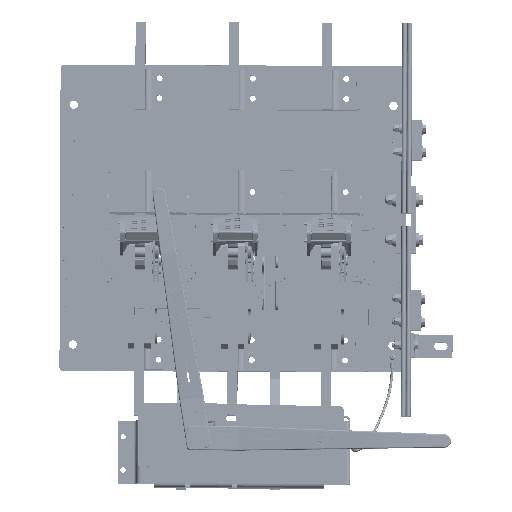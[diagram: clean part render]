
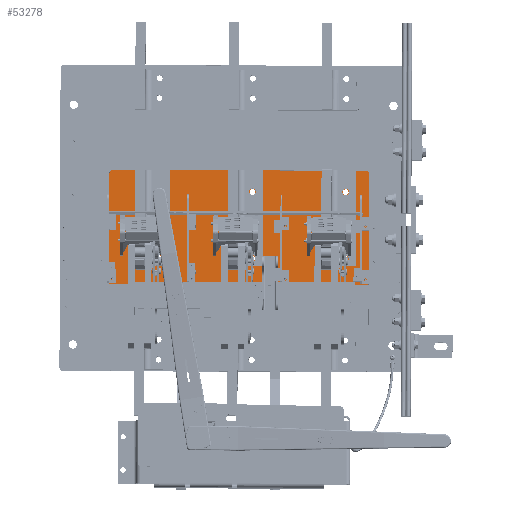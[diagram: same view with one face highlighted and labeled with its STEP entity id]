
A CAD part, top view. The second image highlights one B-rep face of the part: STEP entity #53278.
In plain terms, the highlighted planar face has unit normal (-0.001, 0.016, 1) as drawn and (0, 0, 1) by its records, which use the part's own axes.
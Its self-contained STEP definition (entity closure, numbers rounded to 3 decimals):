
#2370=FACE_BOUND('',#8720,.T.);
#2371=FACE_BOUND('',#8721,.T.);
#2372=FACE_BOUND('',#8722,.T.);
#2373=FACE_BOUND('',#8723,.T.);
#2374=FACE_BOUND('',#8724,.T.);
#2375=FACE_BOUND('',#8725,.T.);
#2376=FACE_BOUND('',#8726,.T.);
#2377=FACE_BOUND('',#8727,.T.);
#2378=FACE_BOUND('',#8728,.T.);
#2379=FACE_BOUND('',#8729,.T.);
#2380=FACE_BOUND('',#8730,.T.);
#2381=FACE_BOUND('',#8731,.T.);
#2382=FACE_BOUND('',#8732,.T.);
#2383=FACE_BOUND('',#8733,.T.);
#2384=FACE_BOUND('',#8734,.T.);
#2385=FACE_BOUND('',#8735,.T.);
#2386=FACE_BOUND('',#8736,.T.);
#3629=PLANE('',#58495);
#5556=FACE_OUTER_BOUND('',#8719,.T.);
#8719=EDGE_LOOP('',(#40740,#40741,#40742,#40743,#40744,#40745));
#8720=EDGE_LOOP('',(#40746));
#8721=EDGE_LOOP('',(#40747));
#8722=EDGE_LOOP('',(#40748));
#8723=EDGE_LOOP('',(#40749));
#8724=EDGE_LOOP('',(#40750));
#8725=EDGE_LOOP('',(#40751));
#8726=EDGE_LOOP('',(#40752));
#8727=EDGE_LOOP('',(#40753));
#8728=EDGE_LOOP('',(#40754));
#8729=EDGE_LOOP('',(#40755));
#8730=EDGE_LOOP('',(#40756));
#8731=EDGE_LOOP('',(#40757));
#8732=EDGE_LOOP('',(#40758));
#8733=EDGE_LOOP('',(#40759));
#8734=EDGE_LOOP('',(#40760));
#8735=EDGE_LOOP('',(#40761));
#8736=EDGE_LOOP('',(#40762));
#12375=CIRCLE('',#58278,0.07);
#12377=CIRCLE('',#58282,0.07);
#12379=CIRCLE('',#58286,0.07);
#12381=CIRCLE('',#58290,0.07);
#12383=CIRCLE('',#58294,0.07);
#12385=CIRCLE('',#58298,0.07);
#12387=CIRCLE('',#58302,0.07);
#12389=CIRCLE('',#58306,0.07);
#12393=CIRCLE('',#58314,0.219);
#12394=CIRCLE('',#58316,0.219);
#12395=CIRCLE('',#58318,0.219);
#12396=CIRCLE('',#58320,0.219);
#12397=CIRCLE('',#58322,0.219);
#12398=CIRCLE('',#58324,0.219);
#12399=CIRCLE('',#58326,0.219);
#12400=CIRCLE('',#58328,0.219);
#12401=CIRCLE('',#58330,0.219);
#12480=CIRCLE('',#58489,0.237);
#12481=CIRCLE('',#58494,0.237);
#15604=LINE('',#83871,#19936);
#15608=LINE('',#83880,#19940);
#15610=LINE('',#83884,#19942);
#15612=LINE('',#83888,#19944);
#19936=VECTOR('',#67706,0.394);
#19940=VECTOR('',#67716,0.394);
#19942=VECTOR('',#67720,0.394);
#19944=VECTOR('',#67724,0.394);
#24462=VERTEX_POINT('',#83412);
#24464=VERTEX_POINT('',#83419);
#24466=VERTEX_POINT('',#83426);
#24468=VERTEX_POINT('',#83433);
#24470=VERTEX_POINT('',#83440);
#24472=VERTEX_POINT('',#83447);
#24474=VERTEX_POINT('',#83454);
#24476=VERTEX_POINT('',#83461);
#24480=VERTEX_POINT('',#83475);
#24481=VERTEX_POINT('',#83479);
#24482=VERTEX_POINT('',#83483);
#24483=VERTEX_POINT('',#83487);
#24484=VERTEX_POINT('',#83491);
#24485=VERTEX_POINT('',#83495);
#24486=VERTEX_POINT('',#83499);
#24487=VERTEX_POINT('',#83503);
#24488=VERTEX_POINT('',#83507);
#24600=VERTEX_POINT('',#83869);
#24601=VERTEX_POINT('',#83870);
#24602=VERTEX_POINT('',#83875);
#24603=VERTEX_POINT('',#83879);
#24604=VERTEX_POINT('',#83883);
#24605=VERTEX_POINT('',#83887);
#30313=EDGE_CURVE('',#24462,#24462,#12375,.T.);
#30316=EDGE_CURVE('',#24464,#24464,#12377,.T.);
#30319=EDGE_CURVE('',#24466,#24466,#12379,.T.);
#30322=EDGE_CURVE('',#24468,#24468,#12381,.T.);
#30325=EDGE_CURVE('',#24470,#24470,#12383,.T.);
#30328=EDGE_CURVE('',#24472,#24472,#12385,.T.);
#30331=EDGE_CURVE('',#24474,#24474,#12387,.T.);
#30334=EDGE_CURVE('',#24476,#24476,#12389,.T.);
#30340=EDGE_CURVE('',#24480,#24480,#12393,.T.);
#30342=EDGE_CURVE('',#24481,#24481,#12394,.T.);
#30344=EDGE_CURVE('',#24482,#24482,#12395,.T.);
#30346=EDGE_CURVE('',#24483,#24483,#12396,.T.);
#30348=EDGE_CURVE('',#24484,#24484,#12397,.T.);
#30350=EDGE_CURVE('',#24485,#24485,#12398,.T.);
#30352=EDGE_CURVE('',#24486,#24486,#12399,.T.);
#30354=EDGE_CURVE('',#24487,#24487,#12400,.T.);
#30356=EDGE_CURVE('',#24488,#24488,#12401,.T.);
#30527=EDGE_CURVE('',#24600,#24601,#15604,.T.);
#30530=EDGE_CURVE('',#24601,#24602,#12480,.T.);
#30532=EDGE_CURVE('',#24602,#24603,#15608,.T.);
#30534=EDGE_CURVE('',#24603,#24604,#15610,.T.);
#30536=EDGE_CURVE('',#24604,#24605,#15612,.T.);
#30538=EDGE_CURVE('',#24605,#24600,#12481,.T.);
#40740=ORIENTED_EDGE('',*,*,#30527,.F.);
#40741=ORIENTED_EDGE('',*,*,#30538,.F.);
#40742=ORIENTED_EDGE('',*,*,#30536,.F.);
#40743=ORIENTED_EDGE('',*,*,#30534,.F.);
#40744=ORIENTED_EDGE('',*,*,#30532,.F.);
#40745=ORIENTED_EDGE('',*,*,#30530,.F.);
#40746=ORIENTED_EDGE('',*,*,#30313,.T.);
#40747=ORIENTED_EDGE('',*,*,#30316,.T.);
#40748=ORIENTED_EDGE('',*,*,#30319,.T.);
#40749=ORIENTED_EDGE('',*,*,#30322,.T.);
#40750=ORIENTED_EDGE('',*,*,#30325,.T.);
#40751=ORIENTED_EDGE('',*,*,#30328,.T.);
#40752=ORIENTED_EDGE('',*,*,#30331,.T.);
#40753=ORIENTED_EDGE('',*,*,#30334,.T.);
#40754=ORIENTED_EDGE('',*,*,#30340,.T.);
#40755=ORIENTED_EDGE('',*,*,#30342,.T.);
#40756=ORIENTED_EDGE('',*,*,#30344,.T.);
#40757=ORIENTED_EDGE('',*,*,#30346,.T.);
#40758=ORIENTED_EDGE('',*,*,#30348,.T.);
#40759=ORIENTED_EDGE('',*,*,#30350,.T.);
#40760=ORIENTED_EDGE('',*,*,#30352,.T.);
#40761=ORIENTED_EDGE('',*,*,#30354,.T.);
#40762=ORIENTED_EDGE('',*,*,#30356,.T.);
#53278=ADVANCED_FACE('',(#5556,#2370,#2371,#2372,#2373,#2374,#2375,#2376,
#2377,#2378,#2379,#2380,#2381,#2382,#2383,#2384,#2385,#2386),#3629,.T.);
#58278=AXIS2_PLACEMENT_3D('',#83413,#67177,#67178);
#58282=AXIS2_PLACEMENT_3D('',#83420,#67186,#67187);
#58286=AXIS2_PLACEMENT_3D('',#83427,#67195,#67196);
#58290=AXIS2_PLACEMENT_3D('',#83434,#67204,#67205);
#58294=AXIS2_PLACEMENT_3D('',#83441,#67213,#67214);
#58298=AXIS2_PLACEMENT_3D('',#83448,#67222,#67223);
#58302=AXIS2_PLACEMENT_3D('',#83455,#67231,#67232);
#58306=AXIS2_PLACEMENT_3D('',#83462,#67240,#67241);
#58314=AXIS2_PLACEMENT_3D('',#83476,#67258,#67259);
#58316=AXIS2_PLACEMENT_3D('',#83480,#67263,#67264);
#58318=AXIS2_PLACEMENT_3D('',#83484,#67268,#67269);
#58320=AXIS2_PLACEMENT_3D('',#83488,#67273,#67274);
#58322=AXIS2_PLACEMENT_3D('',#83492,#67278,#67279);
#58324=AXIS2_PLACEMENT_3D('',#83496,#67283,#67284);
#58326=AXIS2_PLACEMENT_3D('',#83500,#67288,#67289);
#58328=AXIS2_PLACEMENT_3D('',#83504,#67293,#67294);
#58330=AXIS2_PLACEMENT_3D('',#83508,#67298,#67299);
#58489=AXIS2_PLACEMENT_3D('',#83876,#67711,#67712);
#58494=AXIS2_PLACEMENT_3D('',#83891,#67728,#67729);
#58495=AXIS2_PLACEMENT_3D('',#83892,#67730,#67731);
#67177=DIRECTION('center_axis',(0.,0.,-1.));
#67178=DIRECTION('ref_axis',(-1.,0.,0.));
#67186=DIRECTION('center_axis',(0.,0.,-1.));
#67187=DIRECTION('ref_axis',(-1.,0.,0.));
#67195=DIRECTION('center_axis',(0.,0.,-1.));
#67196=DIRECTION('ref_axis',(-1.,0.,0.));
#67204=DIRECTION('center_axis',(0.,0.,-1.));
#67205=DIRECTION('ref_axis',(-1.,0.,0.));
#67213=DIRECTION('center_axis',(0.,0.,-1.));
#67214=DIRECTION('ref_axis',(-1.,0.,0.));
#67222=DIRECTION('center_axis',(0.,0.,-1.));
#67223=DIRECTION('ref_axis',(-1.,0.,0.));
#67231=DIRECTION('center_axis',(0.,0.,-1.));
#67232=DIRECTION('ref_axis',(-1.,0.,0.));
#67240=DIRECTION('center_axis',(0.,0.,-1.));
#67241=DIRECTION('ref_axis',(-1.,0.,0.));
#67258=DIRECTION('center_axis',(0.,0.,-1.));
#67259=DIRECTION('ref_axis',(-1.,0.,0.));
#67263=DIRECTION('center_axis',(0.,0.,-1.));
#67264=DIRECTION('ref_axis',(-1.,0.,0.));
#67268=DIRECTION('center_axis',(0.,0.,-1.));
#67269=DIRECTION('ref_axis',(-1.,0.,0.));
#67273=DIRECTION('center_axis',(0.,0.,-1.));
#67274=DIRECTION('ref_axis',(-1.,0.,0.));
#67278=DIRECTION('center_axis',(0.,0.,-1.));
#67279=DIRECTION('ref_axis',(-1.,0.,0.));
#67283=DIRECTION('center_axis',(0.,0.,-1.));
#67284=DIRECTION('ref_axis',(-1.,0.,0.));
#67288=DIRECTION('center_axis',(0.,0.,-1.));
#67289=DIRECTION('ref_axis',(-1.,0.,0.));
#67293=DIRECTION('center_axis',(0.,0.,-1.));
#67294=DIRECTION('ref_axis',(-1.,0.,0.));
#67298=DIRECTION('center_axis',(0.,0.,-1.));
#67299=DIRECTION('ref_axis',(-1.,0.,0.));
#67706=DIRECTION('',(1.,0.,0.));
#67711=DIRECTION('center_axis',(0.,0.,-1.));
#67712=DIRECTION('ref_axis',(-1.,0.,0.));
#67716=DIRECTION('',(0.,-1.,0.));
#67720=DIRECTION('',(-1.,0.,0.));
#67724=DIRECTION('',(0.,1.,0.));
#67728=DIRECTION('center_axis',(0.,0.,-1.));
#67729=DIRECTION('ref_axis',(0.,-1.,0.));
#67730=DIRECTION('center_axis',(0.,0.,1.));
#67731=DIRECTION('ref_axis',(1.,0.,0.));
#83412=CARTESIAN_POINT('',(38.758,-12.063,0.5));
#83413=CARTESIAN_POINT('Origin',(38.688,-12.063,0.5));
#83419=CARTESIAN_POINT('',(45.758,-12.063,0.5));
#83420=CARTESIAN_POINT('Origin',(45.688,-12.063,0.5));
#83426=CARTESIAN_POINT('',(51.758,-12.063,0.5));
#83427=CARTESIAN_POINT('Origin',(51.688,-12.063,0.5));
#83433=CARTESIAN_POINT('',(51.758,-16.063,0.5));
#83434=CARTESIAN_POINT('Origin',(51.688,-16.063,0.5));
#83440=CARTESIAN_POINT('',(45.758,-16.063,0.5));
#83441=CARTESIAN_POINT('Origin',(45.688,-16.063,0.5));
#83447=CARTESIAN_POINT('',(38.758,-16.063,0.5));
#83448=CARTESIAN_POINT('Origin',(38.688,-16.063,0.5));
#83454=CARTESIAN_POINT('',(32.758,-16.063,0.5));
#83455=CARTESIAN_POINT('Origin',(32.688,-16.063,0.5));
#83461=CARTESIAN_POINT('',(32.758,-12.063,0.5));
#83462=CARTESIAN_POINT('Origin',(32.688,-12.063,0.5));
#83475=CARTESIAN_POINT('',(50.406,-9.5,0.5));
#83476=CARTESIAN_POINT('Origin',(50.188,-9.5,0.5));
#83479=CARTESIAN_POINT('',(50.406,-12.,0.5));
#83480=CARTESIAN_POINT('Origin',(50.188,-12.,0.5));
#83483=CARTESIAN_POINT('',(50.406,-14.5,0.5));
#83484=CARTESIAN_POINT('Origin',(50.188,-14.5,0.5));
#83487=CARTESIAN_POINT('',(43.406,-9.5,0.5));
#83488=CARTESIAN_POINT('Origin',(43.188,-9.5,0.5));
#83491=CARTESIAN_POINT('',(43.406,-12.,0.5));
#83492=CARTESIAN_POINT('Origin',(43.188,-12.,0.5));
#83495=CARTESIAN_POINT('',(43.406,-14.5,0.5));
#83496=CARTESIAN_POINT('Origin',(43.188,-14.5,0.5));
#83499=CARTESIAN_POINT('',(36.406,-14.5,0.5));
#83500=CARTESIAN_POINT('Origin',(36.188,-14.5,0.5));
#83503=CARTESIAN_POINT('',(36.406,-12.,0.5));
#83504=CARTESIAN_POINT('Origin',(36.188,-12.,0.5));
#83507=CARTESIAN_POINT('',(36.406,-9.5,0.5));
#83508=CARTESIAN_POINT('Origin',(36.188,-9.5,0.5));
#83869=CARTESIAN_POINT('',(32.688,-7.888,0.5));
#83870=CARTESIAN_POINT('',(51.688,-7.888,0.5));
#83871=CARTESIAN_POINT('',(32.688,-7.888,0.5));
#83875=CARTESIAN_POINT('',(51.924,-8.125,0.5));
#83876=CARTESIAN_POINT('Origin',(51.688,-8.125,0.5));
#83879=CARTESIAN_POINT('',(51.924,-16.461,0.5));
#83880=CARTESIAN_POINT('',(51.924,-8.125,0.5));
#83883=CARTESIAN_POINT('',(32.451,-16.461,0.5));
#83884=CARTESIAN_POINT('',(51.938,-16.461,0.5));
#83887=CARTESIAN_POINT('',(32.451,-8.125,0.5));
#83888=CARTESIAN_POINT('',(32.451,-16.474,0.5));
#83891=CARTESIAN_POINT('Origin',(32.688,-8.125,0.5));
#83892=CARTESIAN_POINT('Origin',(42.188,-12.191,0.5));
